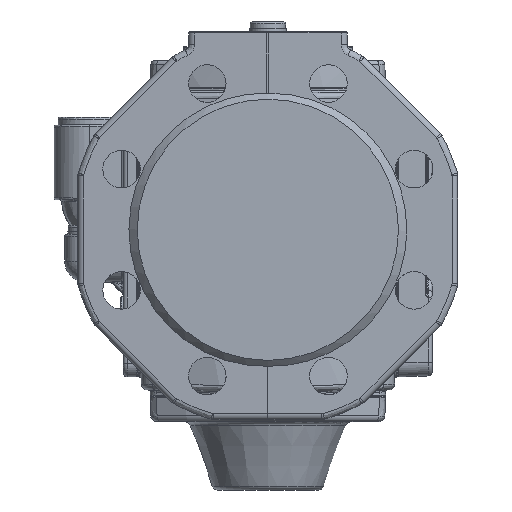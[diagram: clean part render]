
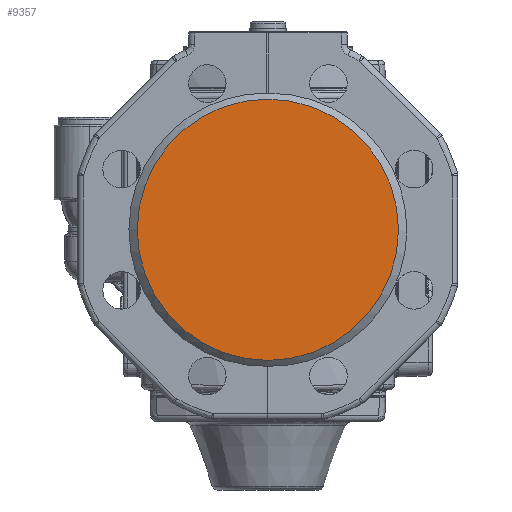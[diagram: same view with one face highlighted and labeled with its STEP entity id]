
A CAD part, left-side view. The second image highlights one B-rep face of the part: STEP entity #9357.
In plain terms, the highlighted planar face has unit normal (-1, 0, 0).
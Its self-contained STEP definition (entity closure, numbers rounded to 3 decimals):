
#9357=ADVANCED_FACE('',(#12824),#11876,.T.);
#11876=PLANE('',#41493);
#12824=FACE_OUTER_BOUND('',#15009,.T.);
#15009=EDGE_LOOP('',(#18791));
#18791=ORIENTED_EDGE('',*,*,#34104,.F.);
#30313=VERTEX_POINT('',#59902);
#34104=EDGE_CURVE('',#30313,#30313,#39265,.T.);
#39265=CIRCLE('',#41492,66.);
#41492=AXIS2_PLACEMENT_3D('',#59901,#46638,#46639);
#41493=AXIS2_PLACEMENT_3D('',#59903,#46640,#46641);
#46638=DIRECTION('',(1.,0.,0.));
#46639=DIRECTION('',(0.,0.,1.));
#46640=DIRECTION('',(-1.,0.,0.));
#46641=DIRECTION('',(0.,0.,1.));
#59901=CARTESIAN_POINT('',(-155.,-1.,-1.));
#59902=CARTESIAN_POINT('',(-155.,-1.,65.));
#59903=CARTESIAN_POINT('',(-155.,-1.,-1.));
